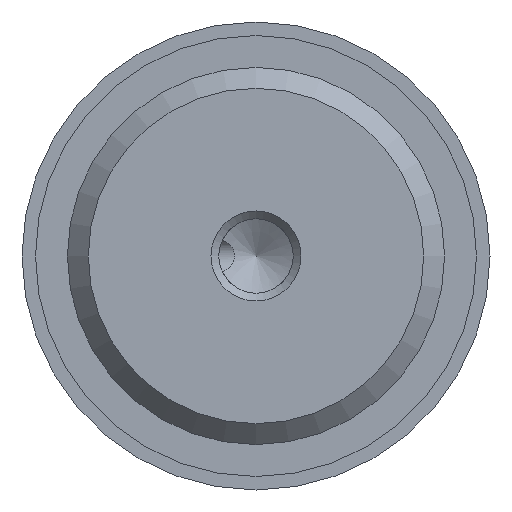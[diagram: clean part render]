
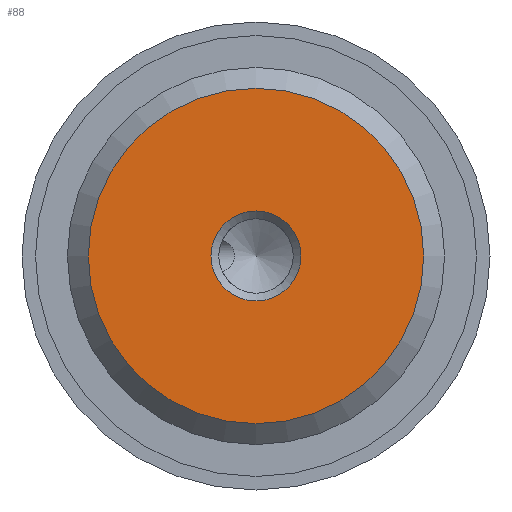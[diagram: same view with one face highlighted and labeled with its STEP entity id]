
A CAD part, front view. The second image highlights one B-rep face of the part: STEP entity #88.
In plain terms, the highlighted planar face has unit normal (0, -1, 0).
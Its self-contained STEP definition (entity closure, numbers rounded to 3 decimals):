
#88 = ADVANCED_FACE( '', ( #136, #137 ), #138, .F. );
#136 = FACE_BOUND( '', #202, .T. );
#137 = FACE_OUTER_BOUND( '', #203, .T. );
#138 = PLANE( '', #204 );
#202 = EDGE_LOOP( '', ( #316 ) );
#203 = EDGE_LOOP( '', ( #317 ) );
#204 = AXIS2_PLACEMENT_3D( '', #318, #319, #320 );
#316 = ORIENTED_EDGE( '', *, *, #434, .F. );
#317 = ORIENTED_EDGE( '', *, *, #435, .T. );
#318 = CARTESIAN_POINT( '', ( 9.316, 0., 0. ) );
#319 = DIRECTION( '', ( 0., 1., 0. ) );
#320 = DIRECTION( '', ( 0., 0., 1. ) );
#434 = EDGE_CURVE( '', #503, #503, #504, .T. );
#435 = EDGE_CURVE( '', #505, #505, #506, .T. );
#503 = VERTEX_POINT( '', #700 );
#504 = CIRCLE( '', #701, 2.5 );
#505 = VERTEX_POINT( '', #702 );
#506 = CIRCLE( '', #703, 9.316 );
#700 = CARTESIAN_POINT( '', ( 2.5, 0., 0. ) );
#701 = AXIS2_PLACEMENT_3D( '', #778, #779, #780 );
#702 = CARTESIAN_POINT( '', ( 0., 0., -9.316 ) );
#703 = AXIS2_PLACEMENT_3D( '', #781, #782, #783 );
#778 = CARTESIAN_POINT( '', ( 0., 0., 0. ) );
#779 = DIRECTION( '', ( 0., -1., 0. ) );
#780 = DIRECTION( '', ( 1., 0., 0. ) );
#781 = CARTESIAN_POINT( '', ( 0., 0., 0. ) );
#782 = DIRECTION( '', ( 0., -1., 0. ) );
#783 = DIRECTION( '', ( 0., 0., -1. ) );
